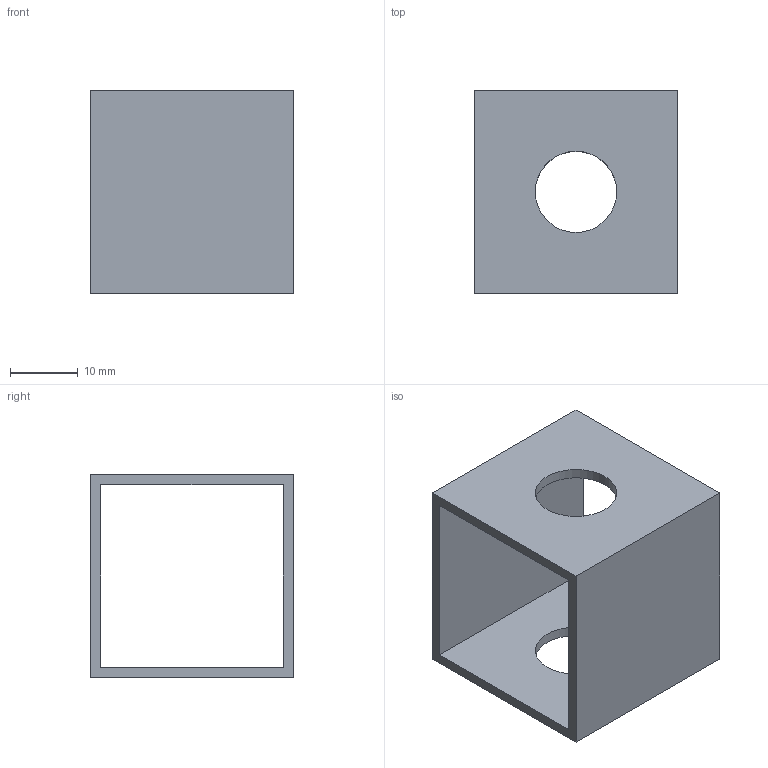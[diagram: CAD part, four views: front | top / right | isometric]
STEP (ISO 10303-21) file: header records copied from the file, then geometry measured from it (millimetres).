
FILE_DESCRIPTION(/* description */ (''),/* implementation_level */ '2;1');
FILE_NAME(/* name */ '2020TOMO-PAV-Distanziatore.stp',/* time_stamp */ '2022-05-16T13:59:00+02:00',/* author */ (''),/* organization */ (''),/* preprocessor_version */ 'ST-DEVELOPER v18.102',/* originating_system */ 'SIEMENS PLM Software NX 2000',/* authorisation */ '');
FILE_SCHEMA (('AUTOMOTIVE_DESIGN { 1 0 10303 214 3 1 1 1 }'));
Length unit declared in the file: millimetre
Products named in the file (1): turc3144724Fyyht
Bounding box: 30 x 30 x 30 mm (x, y, z)
Volume: 4790.7 mm3; surface area: 6842.7 mm2
Topology: 1 solids, 1 shells, 12 faces, 31 edges, 21 vertices
Faces by surface type: plane 10, cylinder 2
Full cylindrical faces by diameter (mm): 12 x2
Entity records: 392 total; most frequent: CARTESIAN_POINT 61, DIRECTION 58, ORIENTED_EDGE 56, EDGE_CURVE 28, LINE 24, VECTOR 24, EDGE_LOOP 20, VERTEX_POINT 20
